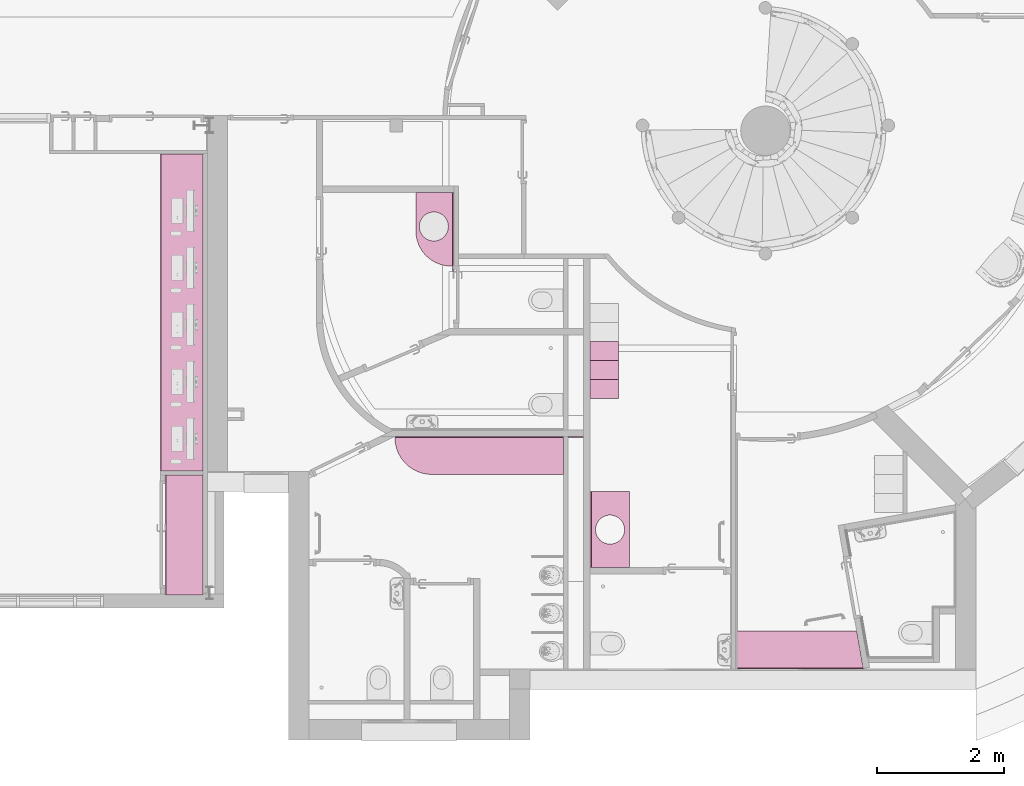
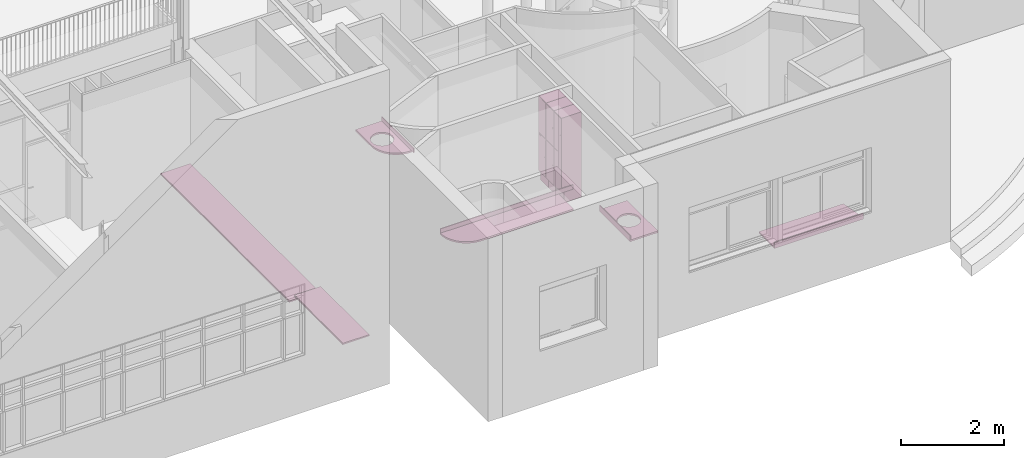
# One storey, part 117 of 137: 9 furnishings, 1 opening.
"""IFC2X3 building model written with IfcOpenShell, lengths in centimetres."""

from ifc_helpers import new_model, entity, si_unit, converted_unit, derived_unit, direction, frame, frame_2d, origin, origin_2d_with_axis, place, context, subcontext, project, spatial, polyline, circle_curve, parameter, trimmed, segment, composite_curve, rectangle, circle, outline, extrude, faceted_brep, source, transform, mapped, material, material_list, type_object, type_shapes, element, save


model = new_model("IFC2X3")

# Units and contexts
model_context = context("Model", 3, precision=0.001, world=origin(), true_north=direction((6.12303176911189e-17, 1.0)))
body_context = subcontext(model_context, "Body", "Model", "MODEL_VIEW")
ifc_project = project(units=[si_unit("LENGTHUNIT", "METRE", prefix="CENTI"), si_unit("AREAUNIT", "SQUARE_METRE"), si_unit("VOLUMEUNIT", "CUBIC_METRE"), converted_unit("PLANEANGLEUNIT", "DEGREE", entity("IfcRatioMeasure", 0.0174532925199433), si_unit("PLANEANGLEUNIT", "RADIAN"), dimensions=[0, 0, 0, 0, 0, 0, 0]), si_unit("MASSUNIT", "GRAM", prefix="KILO"), si_unit("TIMEUNIT", "SECOND"), si_unit("FREQUENCYUNIT", "HERTZ"), si_unit("THERMODYNAMICTEMPERATUREUNIT", "DEGREE_CELSIUS"), derived_unit("THERMALTRANSMITTANCEUNIT", [(si_unit("MASSUNIT", "GRAM", prefix="KILO"), 1), (si_unit("THERMODYNAMICTEMPERATUREUNIT", "KELVIN"), -1), (si_unit("TIMEUNIT", "SECOND"), -3)]), derived_unit("VOLUMETRICFLOWRATEUNIT", [(si_unit("LENGTHUNIT", "METRE"), 3), (si_unit("TIMEUNIT", "SECOND"), -1)]), si_unit("ELECTRICCURRENTUNIT", "AMPERE"), si_unit("ELECTRICVOLTAGEUNIT", "VOLT"), si_unit("POWERUNIT", "WATT"), si_unit("FORCEUNIT", "NEWTON", prefix="KILO"), si_unit("ILLUMINANCEUNIT", "LUX"), si_unit("LUMINOUSFLUXUNIT", "LUMEN"), si_unit("LUMINOUSINTENSITYUNIT", "CANDELA"), derived_unit("USERDEFINED", [(si_unit("MASSUNIT", "GRAM", prefix="KILO"), -1), (si_unit("LENGTHUNIT", "METRE"), -2), (si_unit("TIMEUNIT", "SECOND"), 3), (si_unit("LUMINOUSFLUXUNIT", "LUMEN"), 1)]), derived_unit("LINEARVELOCITYUNIT", [(si_unit("LENGTHUNIT", "METRE"), 1), (si_unit("TIMEUNIT", "SECOND"), -1)]), si_unit("PRESSUREUNIT", "PASCAL"), derived_unit("USERDEFINED", [(si_unit("LENGTHUNIT", "METRE"), -2), (si_unit("MASSUNIT", "GRAM", prefix="KILO"), 1), (si_unit("TIMEUNIT", "SECOND"), -2)])], contexts=[model_context])

# Site, building, storey, space
site_placement = place(None, frame((8.62739174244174, -249.285249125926, 0.0)))
site = spatial("IfcSite", under=ifc_project, at=site_placement, Name="Default", CompositionType="ELEMENT")
building_placement = place(site_placement, origin())
building = spatial("IfcBuilding", under=site, at=building_placement, CompositionType="ELEMENT")
storey_placement = place(building_placement, origin())
storey = spatial("IfcBuildingStorey", under=building, at=storey_placement, Name="RDC", CompositionType="ELEMENT", Elevation=-8.82465566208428e-11)
space_1_placement = place(storey_placement, origin())
space_1 = spatial("IfcSpace", under=storey, at=space_1_placement, Name="084", CompositionType="ELEMENT", InteriorOrExteriorSpace="INTERNAL")

# Furnishing
ifc_material_1 = material(Name="Bois - Mélaminé bleu")
furniture_type_1 = type_object("IfcFurnitureType", Name="P-600 mm", AssemblyPlace="NOTDEFINED", material=ifc_material_1)
shared_shape_1 = source(origin(), body_context, "Body", "SweptSolid", [
    extrude(outline(composite_curve([segment(polyline([(-29.0474999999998, -44.1613704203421), (29.0474999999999, -44.1613704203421)]), True, "CONTINUOUS"), segment(polyline([(29.0474999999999, -44.1613704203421), (29.0474999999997, 16.39198968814)]), True, "CONTINUOUS"), segment(trimmed(circle_curve(frame_2d((-26.5474999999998, 16.3919896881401), x_axis=(0.0, -1.0)), 55.5949999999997), [parameter(90.0000000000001)], [parameter(182.577349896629)], True, "PARAMETER"), True, "CONTINUOUS"), segment(polyline([(-29.0475, 71.930751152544), (-29.0474999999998, -44.1613704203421)]), True, "CONTINUOUS")], self_intersect=False), holes=[composite_curve([segment(trimmed(circle_curve(frame_2d((0.647499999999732, 9.48698968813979), x_axis=(0.0, 1.0)), 22.87), [parameter(180.0)], [parameter(360.0)], True, "PARAMETER"), False, "CONTINUOUS"), segment(trimmed(circle_curve(frame_2d((0.647499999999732, 9.48698968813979), x_axis=(0.0, 1.0)), 22.87), [parameter(3.56222124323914e-13)], [parameter(180.0)], True, "PARAMETER"), False, "CONTINUOUS")], self_intersect=False)]), frame((-88.5848590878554, -30.9525000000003, 71.0), z_axis=(0.0, 0.0, 1.0), x_axis=(0.0, -1.0, 0.0)), (0.0, 0.0, 1.0), 4.00000000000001),
    extrude(outline(composite_curve([segment(polyline([(-24.3810000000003, -58.5475206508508), (35.6189999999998, -58.5475206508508)]), True, "CONTINUOUS"), segment(polyline([(35.6189999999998, -58.5475206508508), (35.6190000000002, 2.00583945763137)]), True, "CONTINUOUS"), segment(trimmed(circle_curve(frame_2d((-19.9759999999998, 2.00583945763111), x_axis=(0.0, -1.0)), 55.5949999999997), [parameter(90.0000000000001)], [parameter(182.577349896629)], True, "PARAMETER"), True, "CONTINUOUS"), segment(polyline([(-22.4759999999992, 57.5446009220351), (-24.3810000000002, 57.5446009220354)]), True, "CONTINUOUS"), segment(polyline([(-24.3810000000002, 57.5446009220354), (-24.3810000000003, -58.5475206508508)]), True, "CONTINUOUS")], self_intersect=False), holes=[composite_curve([segment(trimmed(circle_curve(frame_2d((7.21899999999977, -4.89916054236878), x_axis=(0.0, 1.0)), 22.87), [parameter(180.0)], [parameter(360.0)], True, "PARAMETER"), False, "CONTINUOUS"), segment(trimmed(circle_curve(frame_2d((7.21899999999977, -4.89916054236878), x_axis=(0.0, 1.0)), 22.87), [parameter(3.56222124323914e-13)], [parameter(180.0)], True, "PARAMETER"), False, "CONTINUOUS")], self_intersect=False)]), frame((-74.1987088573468, -24.3810000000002, 71.0), z_axis=(0.0, 0.0, 1.0), x_axis=(0.0, -1.0, 0.0)), (0.0, 0.0, 1.0), 4.00000000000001),
    extrude(rectangle(XDim=1.90500000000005, YDim=125.0, at=frame_2d((0.0, 1.06581410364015e-14), x_axis=(1.0, 0.0))), frame((-70.2462295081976, -0.952500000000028, 75.0), z_axis=(0.0, 0.0, 1.0), x_axis=(0.0, -1.0, 0.0)), (0.0, 0.0, 1.0), 10.1600000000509),
])
type_shapes(furniture_type_1, [shared_shape_1])
furnishing_1_placement = place(space_1_placement, frame((2551.90482781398, 523.382338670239, 0.0), z_axis=(0.0, 0.0, 1.0), x_axis=(0.0, -1.0, 0.0)))
element("IfcFurnishingElement", 1, at=furnishing_1_placement, inside=space_1, type_object=furniture_type_1, material=ifc_material_1, Name="Plan de travail - Emplacement rond pour lavabo-2:P-600 mm", ObjectType="P-600 mm", context=body_context, shape_type="MappedRepresentation", body=[
    mapped(shared_shape_1, transform((0.0, 0.0, 0.0), scale=1.0)),
])

# Space
space_2_placement = place(storey_placement, origin())
space_2 = spatial("IfcSpace", under=storey, at=space_2_placement, Name="103", CompositionType="ELEMENT", InteriorOrExteriorSpace="INTERNAL")

# Furnishing
furniture_type_2 = type_object("IfcFurnitureType", Name="P-600 mm", AssemblyPlace="NOTDEFINED", material=ifc_material_1)
shared_shape_2 = source(origin(), body_context, "Body", "SweptSolid", [
    extrude(rectangle(XDim=1.90500000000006, YDim=200.0, at=frame_2d((-1.66533453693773e-15, 0.0), x_axis=(1.0, 0.0))), frame((-32.7462295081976, -0.952500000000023, 75.0), z_axis=(0.0, 0.0, 1.0), x_axis=(0.0, -1.0, 0.0)), (0.0, 0.0, 1.0), 10.1600000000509),
    extrude(outline(polyline([(-97.3471895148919, -30.0), (102.621568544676, -30.0), (92.0728104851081, 30.0), (-97.3471895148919, 30.0), (-97.3471895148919, -30.0)])), frame((-30.0934190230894, -30.0, 71.0), z_axis=(0.0, 0.0, 1.0), x_axis=(-1.0, 0.0, 0.0)), (0.0, 0.0, 1.0), 4.00000000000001),
    extrude(outline(polyline([(-97.2634587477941, -29.0474999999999), (102.370376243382, -29.0474999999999), (92.1565412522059, 29.0474999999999), (-97.2634587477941, 29.0474999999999), (-97.2634587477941, -29.0474999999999)]), holes=[composite_curve([segment(trimmed(circle_curve(frame_2d((42.7365412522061, 0.647499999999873), x_axis=(-1.0, 0.0)), 22.8699999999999), [parameter(180.0)], [parameter(3.56222124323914e-13)], True, "PARAMETER"), False, "CONTINUOUS"), segment(trimmed(circle_curve(frame_2d((42.7365412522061, 0.647499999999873), x_axis=(-1.0, 0.0)), 22.8699999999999), [parameter(0.0)], [parameter(180.0)], True, "PARAMETER"), False, "CONTINUOUS")], self_intersect=False), composite_curve([segment(trimmed(circle_curve(frame_2d((-46.263458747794, 0.647499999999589), x_axis=(1.0, 0.0)), 22.8699999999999), [parameter(180.0)], [parameter(359.999999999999)], True, "PARAMETER"), False, "CONTINUOUS"), segment(trimmed(circle_curve(frame_2d((-46.263458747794, 0.647499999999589), x_axis=(1.0, 0.0)), 22.8699999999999), [parameter(359.999999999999)], [parameter(180.0)], True, "PARAMETER"), False, "CONTINUOUS")], self_intersect=False)]), frame((-30.0096882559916, -30.9525, 71.0), z_axis=(0.0, 0.0, 1.0), x_axis=(-1.0, 0.0, 0.0)), (0.0, 0.0, 1.0), 4.00000000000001),
])
type_shapes(furniture_type_2, [shared_shape_2])
furnishing_2_placement = place(space_2_placement, frame((3065.72108218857, -96.0197919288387, 0.0), z_axis=(0.0, 0.0, 1.0), x_axis=(-1.0, 0.0, 0.0)))
element("IfcFurnishingElement", 2, at=furnishing_2_placement, inside=space_2, type_object=furniture_type_2, material=ifc_material_1, Name="Plan de travail - Emplacement rond pour lavabo-4:P-600 mm", ObjectType="P-600 mm", context=body_context, shape_type="MappedRepresentation", body=[
    mapped(shared_shape_2, transform((0.0, 0.0, 0.0), scale=1.0)),
])

# Space
space_3_placement = place(storey_placement, origin())
space_3 = spatial("IfcSpace", under=storey, at=space_3_placement, Name="043", CompositionType="ELEMENT", InteriorOrExteriorSpace="INTERNAL")

# Furnishings
ifc_material_2 = material(Name="Peinture - Grise")
ifc_material_3 = material(Name="Peinture - Blanc")
ifc_material_list_1 = material_list([ifc_material_2, ifc_material_3])
ifc_material_list_2 = material_list([ifc_material_2, ifc_material_3])
furniture_type_3 = type_object("IfcFurnitureType", Name="Casiers 1x2", AssemblyPlace="NOTDEFINED", material=ifc_material_list_2)
shared_shape_3 = source(origin(), body_context, "Body", "Brep", [
    faceted_brep([(5.28593426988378, 45.0, 70.5824072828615), (4.96241046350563, 45.0, 70.6250000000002), (4.63888665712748, 45.0, 70.5824072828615), (4.33741046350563, 45.0, 70.4575317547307), (4.07852698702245, 45.0, 70.2588834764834), (3.87987870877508, 45.0, 70.0), (3.75500318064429, 45.0, 69.6985238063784), (3.71241046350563, 45.0, 69.3750000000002), (3.75500318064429, 45.0, 69.0514761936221), (3.87987870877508, 45.0, 68.7500000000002), (4.07852698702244, 45.0, 68.491116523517), (4.33741046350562, 45.0, 68.2924682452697), (4.63888665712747, 45.0, 68.1675927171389), (4.96241046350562, 45.0, 68.1250000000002), (5.28593426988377, 45.0, 68.1675927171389), (5.58741046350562, 45.0, 68.2924682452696), (5.84629393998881, 45.0, 68.491116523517), (6.04494221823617, 45.0, 68.7500000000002), (6.16981774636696, 45.0, 69.051476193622), (6.21241046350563, 45.0, 69.3750000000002), (6.16981774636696, 45.0, 69.6985238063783), (6.04494221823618, 45.0, 70.0), (5.84629393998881, 45.0, 70.2588834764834), (5.58741046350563, 45.0, 70.4575317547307), (5.84629393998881, 45.3000000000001, 68.491116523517), (5.58741046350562, 45.3000000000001, 68.2924682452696), (5.28593426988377, 45.3000000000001, 68.1675927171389), (4.96241046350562, 45.3000000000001, 68.1250000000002), (4.63888665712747, 45.3000000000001, 68.1675927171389), (4.33741046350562, 45.3000000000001, 68.2924682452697), (4.07852698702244, 45.3000000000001, 68.491116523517), (3.87987870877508, 45.3000000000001, 68.7500000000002), (3.75500318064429, 45.3000000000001, 69.0514761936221), (3.71241046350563, 45.3000000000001, 69.3750000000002), (3.75500318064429, 45.3000000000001, 69.6985238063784), (3.87987870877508, 45.3000000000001, 70.0), (4.07852698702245, 45.3000000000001, 70.2588834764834), (4.33741046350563, 45.3000000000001, 70.4575317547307), (4.63888665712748, 45.3000000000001, 70.5824072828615), (4.96241046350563, 45.3000000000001, 70.6250000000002), (5.28593426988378, 45.3000000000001, 70.5824072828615), (5.58741046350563, 45.3000000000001, 70.4575317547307), (5.84629393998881, 45.3000000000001, 70.2588834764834), (6.04494221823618, 45.3000000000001, 70.0), (6.16981774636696, 45.3000000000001, 69.6985238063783), (6.21241046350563, 45.3000000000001, 69.3750000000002), (6.16981774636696, 45.3000000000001, 69.051476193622), (6.04494221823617, 45.3000000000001, 68.7500000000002)], [[[0, 1, 2, 3, 4, 5, 6, 7, 8, 9, 10, 11, 12, 13, 14, 15, 16, 17, 18, 19, 20, 21, 22, 23]], [[24, 25, 26, 27, 28, 29, 30, 31, 32, 33, 34, 35, 36, 37, 38, 39, 40, 41, 42, 43, 44, 45, 46, 47]], [[7, 33, 32, 8]], [[8, 32, 31, 9]], [[11, 10, 30, 29]], [[30, 10, 9, 31]], [[12, 11, 29, 28]], [[12, 28, 27, 13]], [[13, 27, 26, 14]], [[14, 26, 25, 15]], [[17, 16, 24, 47]], [[24, 16, 15, 25]], [[18, 17, 47, 46]], [[18, 46, 45, 19]], [[19, 45, 44, 20]], [[20, 44, 43, 21]], [[23, 22, 42, 41]], [[42, 22, 21, 43]], [[0, 23, 41, 40]], [[0, 40, 39, 1]], [[1, 39, 38, 2]], [[2, 38, 37, 3]], [[5, 4, 36, 35]], [[36, 4, 3, 37]], [[6, 5, 35, 34]], [[6, 34, 33, 7]]]),
    faceted_brep([(5.28593426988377, 45.3000000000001, 156.917592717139), (4.96241046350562, 45.3000000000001, 156.875), (4.63888665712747, 45.3000000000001, 156.917592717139), (4.33741046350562, 45.3000000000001, 157.042468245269), (4.07852698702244, 45.3000000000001, 157.241116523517), (3.87987870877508, 45.3000000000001, 157.5), (3.75500318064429, 45.3000000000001, 157.801476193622), (3.71241046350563, 45.3000000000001, 158.125), (3.75500318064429, 45.3000000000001, 158.448523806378), (3.87987870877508, 45.3000000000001, 158.75), (4.07852698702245, 45.3000000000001, 159.008883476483), (4.33741046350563, 45.3000000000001, 159.207531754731), (4.63888665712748, 45.3000000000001, 159.332407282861), (4.96241046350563, 45.3000000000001, 159.375), (5.28593426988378, 45.3000000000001, 159.332407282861), (5.58741046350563, 45.3000000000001, 159.207531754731), (5.84629393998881, 45.3000000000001, 159.008883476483), (6.04494221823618, 45.3000000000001, 158.75), (6.16981774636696, 45.3000000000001, 158.448523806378), (6.21241046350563, 45.3000000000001, 158.125), (6.16981774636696, 45.3000000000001, 157.801476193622), (6.04494221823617, 45.3000000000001, 157.5), (5.84629393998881, 45.3000000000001, 157.241116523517), (5.58741046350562, 45.3000000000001, 157.042468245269), (5.28593426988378, 45.0, 159.332407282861), (4.96241046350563, 45.0, 159.375), (4.63888665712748, 45.0, 159.332407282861), (4.33741046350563, 45.0, 159.207531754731), (4.07852698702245, 45.0, 159.008883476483), (3.87987870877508, 45.0, 158.75), (3.75500318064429, 45.0, 158.448523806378), (3.71241046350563, 45.0, 158.125), (3.75500318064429, 45.0, 157.801476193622), (3.87987870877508, 45.0, 157.5), (4.07852698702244, 45.0, 157.241116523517), (4.33741046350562, 45.0, 157.042468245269), (4.63888665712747, 45.0, 156.917592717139), (4.96241046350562, 45.0, 156.875), (5.28593426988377, 45.0, 156.917592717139), (5.58741046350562, 45.0, 157.042468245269), (5.84629393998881, 45.0, 157.241116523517), (6.04494221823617, 45.0, 157.5), (6.16981774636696, 45.0, 157.801476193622), (6.21241046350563, 45.0, 158.125), (6.16981774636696, 45.0, 158.448523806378), (6.04494221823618, 45.0, 158.75), (5.84629393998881, 45.0, 159.008883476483), (5.58741046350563, 45.0, 159.207531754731)], [[[0, 1, 2, 3, 4, 5, 6, 7, 8, 9, 10, 11, 12, 13, 14, 15, 16, 17, 18, 19, 20, 21, 22, 23]], [[24, 25, 26, 27, 28, 29, 30, 31, 32, 33, 34, 35, 36, 37, 38, 39, 40, 41, 42, 43, 44, 45, 46, 47]], [[31, 7, 6, 32]], [[32, 6, 5, 33]], [[35, 34, 4, 3]], [[4, 34, 33, 5]], [[36, 35, 3, 2]], [[36, 2, 1, 37]], [[37, 1, 0, 38]], [[38, 0, 23, 39]], [[41, 40, 22, 21]], [[22, 40, 39, 23]], [[42, 41, 21, 20]], [[42, 20, 19, 43]], [[43, 19, 18, 44]], [[44, 18, 17, 45]], [[47, 46, 16, 15]], [[16, 46, 45, 17]], [[24, 47, 15, 14]], [[24, 14, 13, 25]], [[25, 13, 12, 26]], [[26, 12, 11, 27]], [[29, 28, 10, 9]], [[10, 28, 27, 11]], [[30, 29, 9, 8]], [[30, 8, 7, 31]]]),
    faceted_brep([(30.0, 0.0, 25.0), (30.0, 40.0, 25.0), (0.0, 40.0, 25.0), (0.0, 0.0, 25.0), (30.0, 0.0, 0.0), (0.0, 0.0, 0.0), (0.0, 40.0, 0.0), (30.0, 40.0, 0.0)], [[[0, 1, 2, 3]], [[4, 5, 6, 7]], [[3, 5, 4, 0]], [[2, 6, 5, 3]], [[1, 7, 6, 2]], [[0, 4, 7, 1]]]),
    faceted_brep([(28.1999999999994, 45.0, 200.7), (28.1999999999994, 45.0, 115.55), (1.79999999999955, 45.0, 115.55), (1.79999999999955, 45.0, 200.7), (28.1999999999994, 43.5000000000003, 200.7), (1.79999999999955, 43.5000000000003, 200.7), (1.79999999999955, 43.5000000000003, 115.55), (28.1999999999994, 43.5000000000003, 115.55)], [[[0, 1, 2, 3]], [[4, 5, 6, 7]], [[3, 5, 4, 0]], [[2, 6, 5, 3]], [[1, 7, 6, 2]], [[0, 4, 7, 1]]]),
    faceted_brep([(1.79999999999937, 45.0, 111.95), (1.79999999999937, 43.5000000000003, 111.95), (28.1999999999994, 43.5000000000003, 111.95), (28.1999999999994, 45.0, 111.95), (1.79999999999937, 45.0, 26.8000000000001), (1.79999999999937, 43.5000000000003, 26.8000000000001), (28.1999999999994, 45.0, 26.8000000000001), (28.1999999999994, 43.5000000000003, 26.8000000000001)], [[[0, 1, 2, 3]], [[4, 5, 1, 0]], [[6, 7, 5, 4]], [[3, 2, 7, 6]], [[2, 1, 5, 7]], [[3, 6, 4, 0]]]),
    faceted_brep([(30.0, 45.0, 25.0), (30.0, 45.0, 202.5), (30.0, 0.0, 202.5), (30.0, 0.0, 25.0), (0.0, 45.0, 25.0), (0.0, 0.0, 25.0), (0.0, 0.0, 202.5), (0.0, 45.0, 202.5), (28.4999999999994, 45.0, 26.5), (28.4999999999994, 45.0, 112.25), (1.49999999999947, 45.0, 112.25), (1.49999999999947, 45.0, 26.5), (28.4999999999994, 45.0, 115.25), (28.4999999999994, 45.0, 201.0), (1.49999999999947, 45.0, 201.0), (1.49999999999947, 45.0, 115.25), (28.4999999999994, 1.50000000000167, 26.5), (1.49999999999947, 1.50000000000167, 26.5), (1.49999999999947, 1.50000000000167, 112.25), (28.4999999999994, 1.50000000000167, 112.25), (28.4999999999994, 1.50000000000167, 115.25), (1.49999999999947, 1.50000000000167, 115.25), (1.49999999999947, 1.50000000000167, 201.0), (28.4999999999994, 1.50000000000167, 201.0)], [[[0, 1, 2, 3]], [[4, 5, 6, 7]], [[3, 5, 4, 0]], [[2, 6, 5, 3]], [[1, 7, 6, 2]], [[0, 4, 7, 1], [8, 9, 10, 11], [12, 13, 14, 15]], [[16, 17, 18, 19]], [[16, 8, 11, 17]], [[17, 11, 10, 18]], [[18, 10, 9, 19]], [[19, 9, 8, 16]], [[20, 12, 15, 21]], [[21, 15, 14, 22]], [[22, 14, 13, 23]], [[23, 13, 12, 20]], [[20, 21, 22, 23]]]),
])
type_shapes(furniture_type_3, [shared_shape_3])
furnishing_3_placement = place(space_3_placement, frame((2811.90482779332, 390.900207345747, 0.0), z_axis=(0.0, 0.0, 1.0), x_axis=(0.0, 1.0, 0.0)))
element("IfcFurnishingElement", 3, at=furnishing_3_placement, inside=space_3, type_object=furniture_type_3, material=ifc_material_list_1, Name="Casiers 1x2:Casiers 1x2", ObjectType="Casiers 1x2", context=body_context, shape_type="MappedRepresentation", body=[
    mapped(shared_shape_3, transform((0.0, 0.0, 0.0), scale=1.0)),
])
ifc_material_list_3 = material_list([ifc_material_2, ifc_material_3])
furnishing_4_placement = place(space_3_placement, frame((2811.90482779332, 360.900207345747, 0.0), z_axis=(0.0, 0.0, 1.0), x_axis=(0.0, 1.0, 0.0)))
element("IfcFurnishingElement", 4, at=furnishing_4_placement, inside=space_3, type_object=furniture_type_3, material=ifc_material_list_3, Name="Casiers 1x2:Casiers 1x2", ObjectType="Casiers 1x2", context=body_context, shape_type="MappedRepresentation", body=[
    mapped(shared_shape_3, transform((0.0, 0.0, 0.0), scale=1.0)),
])
ifc_material_list_4 = material_list([ifc_material_2, ifc_material_3])
furnishing_5_placement = place(space_3_placement, frame((2811.90482779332, 330.900207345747, 0.0), z_axis=(0.0, 0.0, 1.0), x_axis=(0.0, 1.0, 0.0)))
element("IfcFurnishingElement", 5, at=furnishing_5_placement, inside=space_3, type_object=furniture_type_3, material=ifc_material_list_4, Name="Casiers 1x2:Casiers 1x2", ObjectType="Casiers 1x2", context=body_context, shape_type="MappedRepresentation", body=[
    mapped(shared_shape_3, transform((0.0, 0.0, 0.0), scale=1.0)),
])
ifc_material_4 = material(Name="Bois - Mélaminé jaune pastel")
furniture_type_4 = type_object("IfcFurnitureType", Name="Sans réservation pour évier", AssemblyPlace="NOTDEFINED", material=ifc_material_4)
shared_shape_4 = source(origin(), body_context, "Body", "SweptSolid", [
    extrude(outline(composite_curve([segment(polyline([(-1.91284418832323, -19.6982569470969), (-0.772934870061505, -19.6982569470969)]), True, "CONTINUOUS"), segment(polyline([(-0.772934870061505, -19.6982569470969), (-0.162844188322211, -19.6982569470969)]), True, "CONTINUOUS"), segment(trimmed(circle_curve(frame_2d((-0.162844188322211, -17.9482569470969), x_axis=(0.0, -1.0)), 1.75), [parameter(4.57999874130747e-13)], [parameter(90.0000000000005)], True, "PARAMETER"), True, "CONTINUOUS"), segment(polyline([(1.58715581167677, -17.9482569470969), (1.58715581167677, -17.5604583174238)]), True, "CONTINUOUS"), segment(polyline([(1.58715581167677, -17.5604583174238), (1.58715581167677, 47.3017430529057)]), True, "CONTINUOUS"), segment(polyline([(1.58715581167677, 47.3017430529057), (-1.91284418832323, 47.3017430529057)]), True, "CONTINUOUS"), segment(polyline([(-1.91284418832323, 47.3017430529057), (-1.91284418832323, -19.6982569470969)]), True, "CONTINUOUS")], self_intersect=False)), frame((-237.690018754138, 50.8017430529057, 89.1128441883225), z_axis=(1.0, 0.0, 0.0), x_axis=(0.0, 0.0, 1.0)), (0.0, 0.0, 1.0), 500.380037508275),
])
type_shapes(furniture_type_4, [shared_shape_4])
furnishing_6_placement = place(storey_placement, frame((2159.40482780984, 454.488056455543, -15.6999999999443), z_axis=(0.0, 0.0, 1.0), x_axis=(0.0, 1.0, 0.0)))
element("IfcFurnishingElement", 6, at=furnishing_6_placement, inside=storey, type_object=furniture_type_4, material=ifc_material_4, Name="PTD:Sans réservation pour évier", ObjectType="Sans réservation pour évier", context=body_context, shape_type="MappedRepresentation", body=[
    mapped(shared_shape_4, transform((0.0, 0.0, 0.0), scale=1.0)),
])

# Furnishing, opening
furniture_type_5 = type_object("IfcFurnitureType", Name="P-600 mm", AssemblyPlace="NOTDEFINED", material=ifc_material_1)
shared_shape_5 = source(origin(), body_context, "Body", "SweptSolid", [
    extrude(outline(polyline([(-8.1066666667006, -19.5633333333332), (-8.1066666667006, -21.4683333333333), (6.0533333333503, -21.4683333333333), (6.05333333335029, 41.0316666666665), (2.05333333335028, 41.0316666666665), (2.05333333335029, -19.5633333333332), (-8.1066666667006, -19.5633333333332)])), frame((-132.746229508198, -21.4683333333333, 77.0533333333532), z_axis=(-1.0, 0.0, 0.0), x_axis=(0.0, 0.0, -1.0)), (0.0, 0.0, -1.0), 120.0),
])
type_shapes(furniture_type_5, [shared_shape_5])
furnishing_7_placement = place(space_3_placement, frame((2766.90482779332, 196.726437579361, 0.0), z_axis=(0.0, 0.0, 1.0), x_axis=(0.0, 1.0, 0.0)))
furnishing_7 = element("IfcFurnishingElement", 7, at=furnishing_7_placement, inside=space_3, type_object=furniture_type_5, material=ifc_material_1, Name="Plan de travail - Emplacement rond pour lavabo:P-600 mm", ObjectType="P-600 mm", context=body_context, shape_type="MappedRepresentation", body=[
    mapped(shared_shape_5, transform((0.0, 0.0, 0.0), scale=1.0)),
])
opening_placement = place(storey_placement, frame((2766.90482779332, 196.726437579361, 0.0), z_axis=(0.0, 0.0, 1.0), x_axis=(-1.0, 0.0, 0.0)))
element("IfcOpeningElement", 8, at=opening_placement, cuts=furnishing_7, Name="Plan de travail - Emplacement rond pour lavabo:P-600 mm:1", ObjectType="Opening", context=body_context, shape_type="SweptSolid", body=[
    extrude(circle(Radius=22.8699999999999, at=frame_2d((0.0, 3.38395977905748e-14), x_axis=(1.0, 0.0))), frame((-31.5999999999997, 72.7462295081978, 75.0), z_axis=(0.0, 0.0, -1.0), x_axis=(0.0, -1.0, 0.0)), (0.0, 0.0, 1.0), 4.00000000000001),
])

# Space
space_4_placement = place(storey_placement, origin())
space_4 = spatial("IfcSpace", under=storey, at=space_4_placement, Name="082", CompositionType="ELEMENT", InteriorOrExteriorSpace="INTERNAL")

# Furnishing
furniture_type_6 = type_object("IfcFurnitureType", Name="P-600 mm", AssemblyPlace="NOTDEFINED", material=ifc_material_1)
shared_shape_6 = source(origin(), body_context, "Body", "SweptSolid", [
    extrude(rectangle(XDim=1.90500000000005, YDim=298.0, at=origin_2d_with_axis()), frame((16.2537704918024, -0.952500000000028, 75.0), z_axis=(0.0, 0.0, 1.0), x_axis=(0.0, -1.0, 0.0)), (0.0, 0.0, 1.0), 10.1600000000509),
    extrude(outline(composite_curve([segment(polyline([(-118.468439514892, -30.0), (147.500318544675, -30.0)]), True, "CONTINUOUS"), segment(trimmed(circle_curve(frame_2d((89.4365604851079, -28.0949999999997), x_axis=(-1.0, 0.0)), 58.0949999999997), [parameter(178.120870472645)], [parameter(270.0)], True, "PARAMETER"), True, "CONTINUOUS"), segment(polyline([(89.4365604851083, 30.0), (-118.468439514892, 30.0)]), True, "CONTINUOUS"), segment(polyline([(-118.468439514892, 30.0), (-118.468439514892, -30.0)]), True, "CONTINUOUS")], self_intersect=False)), frame((14.7853309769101, -30.0, 71.0), z_axis=(0.0, 0.0, 1.0), x_axis=(-1.0, 0.0, 0.0)), (0.0, 0.0, 1.0), 4.00000000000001),
    extrude(outline(composite_curve([segment(polyline([(-118.47625, 29.0474999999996), (-118.47625, -29.0475000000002)]), True, "CONTINUOUS"), segment(polyline([(-118.47625, -29.0475000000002), (89.4287500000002, -29.0474999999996)]), True, "CONTINUOUS"), segment(trimmed(circle_curve(frame_2d((89.4287499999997, 29.0474999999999), x_axis=(-1.0, 0.0)), 58.0949999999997), [parameter(90.0)], [parameter(180.0)], True, "PARAMETER"), True, "CONTINUOUS"), segment(polyline([(147.52375, 29.0474999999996), (-118.47625, 29.0474999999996)]), True, "CONTINUOUS")], self_intersect=False), holes=[composite_curve([segment(trimmed(circle_curve(frame_2d((87.5237499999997, -0.647499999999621), x_axis=(-1.0, 0.0)), 22.8699999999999), [parameter(180.0)], [parameter(0.0)], True, "PARAMETER"), False, "CONTINUOUS"), segment(trimmed(circle_curve(frame_2d((87.5237499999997, -0.647499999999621), x_axis=(-1.0, 0.0)), 22.8699999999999), [parameter(360.0)], [parameter(180.0)], True, "PARAMETER"), False, "CONTINUOUS")], self_intersect=False), composite_curve([segment(trimmed(circle_curve(frame_2d((-90.4762500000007, -0.647500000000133), x_axis=(1.0, 0.0)), 22.8699999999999), [parameter(1.42488849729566e-12)], [parameter(180.0)], True, "PARAMETER"), False, "CONTINUOUS"), segment(trimmed(circle_curve(frame_2d((-90.4762500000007, -0.647500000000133), x_axis=(1.0, 0.0)), 22.8699999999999), [parameter(180.0)], [parameter(7.12444248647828e-13)], True, "PARAMETER"), False, "CONTINUOUS")], self_intersect=False), composite_curve([segment(trimmed(circle_curve(frame_2d((-1.47625000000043, -0.647499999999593), x_axis=(1.0, 0.0)), 22.8699999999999), [parameter(180.0)], [parameter(7.12444248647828e-13)], True, "PARAMETER"), False, "CONTINUOUS"), segment(trimmed(circle_curve(frame_2d((-1.47625000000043, -0.647499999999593), x_axis=(1.0, 0.0)), 22.8699999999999), [parameter(1.42488849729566e-12)], [parameter(180.0)], True, "PARAMETER"), False, "CONTINUOUS")], self_intersect=False)]), frame((14.777520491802, -30.9525, 71.0), z_axis=(0.0, 0.0, -1.0), x_axis=(-1.0, 0.0, 0.0)), (0.0, 0.0, -1.0), 4.00000000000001),
])
type_shapes(furniture_type_6, [shared_shape_6])
furnishing_8_placement = place(space_4_placement, frame((2591.65105730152, 271.128568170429, 0.0)))
element("IfcFurnishingElement", 9, at=furnishing_8_placement, inside=space_4, type_object=furniture_type_6, material=ifc_material_1, Name="Plan de travail - Emplacement rond pour lavabo-1:P-600 mm", ObjectType="P-600 mm", context=body_context, shape_type="MappedRepresentation", body=[
    mapped(shared_shape_6, transform((0.0, 0.0, 0.0), scale=1.0)),
])

# Space
space_5_placement = place(storey_placement, origin())
space_5 = spatial("IfcSpace", under=storey, at=space_5_placement, Name="102", CompositionType="ELEMENT", InteriorOrExteriorSpace="INTERNAL")

# Furnishing
furniture_type_7 = type_object("IfcFurnitureType", Name="Avec réservation pour évier", AssemblyPlace="NOTDEFINED", material=ifc_material_4)
shared_shape_7 = source(origin(), body_context, "Body", "SweptSolid", [
    extrude(outline(composite_curve([segment(polyline([(-1.91284418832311, -17.56427099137), (-0.772934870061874, -17.56427099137)]), True, "CONTINUOUS"), segment(polyline([(-0.772934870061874, -17.56427099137), (-0.16284418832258, -17.56427099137)]), True, "CONTINUOUS"), segment(trimmed(circle_curve(frame_2d((-0.16284418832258, -15.81427099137), x_axis=(0.0, -1.0)), 1.75), [parameter(4.57999874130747e-13)], [parameter(90.0000000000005)], True, "PARAMETER"), True, "CONTINUOUS"), segment(polyline([(1.58715581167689, -15.81427099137), (1.58715581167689, -15.4264723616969)]), True, "CONTINUOUS"), segment(polyline([(1.58715581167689, -15.4264723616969), (1.58715581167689, 41.9667781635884)]), True, "CONTINUOUS"), segment(polyline([(1.58715581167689, 41.9667781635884), (-1.91284418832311, 41.9667781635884)]), True, "CONTINUOUS"), segment(polyline([(-1.91284418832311, 41.9667781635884), (-1.91284418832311, -17.56427099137)]), True, "CONTINUOUS")], self_intersect=False)), frame((-81.9606644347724, 45.4667781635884, 89.1128441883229), z_axis=(1.0, 0.0, 0.0), x_axis=(0.0, 0.0, 1.0)), (0.0, 0.0, 1.0), 188.921328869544),
])
type_shapes(furniture_type_7, [shared_shape_7])
furnishing_9_placement = place(space_5_placement, frame((2159.40482780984, 103.026837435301, 0.0), z_axis=(0.0, 0.0, 1.0), x_axis=(0.0, 1.0, 0.0)))
element("IfcFurnishingElement", 10, at=furnishing_9_placement, inside=space_5, type_object=furniture_type_7, material=ifc_material_4, Name="PTD:Avec réservation pour évier", ObjectType="Avec réservation pour évier", context=body_context, shape_type="MappedRepresentation", body=[
    mapped(shared_shape_7, transform((0.0, 0.0, 0.0), scale=1.0)),
])

save(model, "model.ifc")
